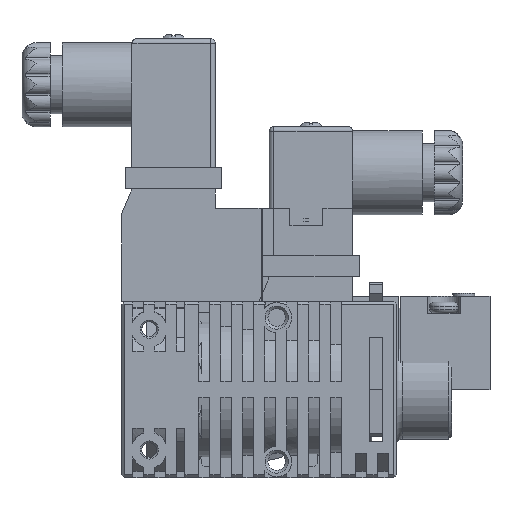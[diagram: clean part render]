
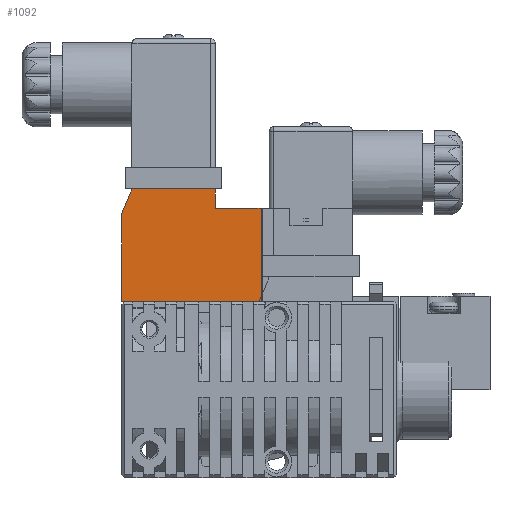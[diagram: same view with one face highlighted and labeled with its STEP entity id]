
A CAD part, front view. The second image highlights one B-rep face of the part: STEP entity #1092.
In plain terms, the highlighted planar face has unit normal (0, -1, 0).
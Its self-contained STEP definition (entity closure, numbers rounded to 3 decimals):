
#1092 = ADVANCED_FACE( '', ( #3025 ), #3026, .T. );
#3025 = FACE_OUTER_BOUND( '', #6035, .T. );
#3026 = PLANE( '', #6036 );
#6035 = EDGE_LOOP( '', ( #9441, #9442, #9443, #9444, #9445, #9446, #9447 ) );
#6036 = AXIS2_PLACEMENT_3D( '', #9448, #9449, #9450 );
#9441 = ORIENTED_EDGE( '', *, *, #17587, .F. );
#9442 = ORIENTED_EDGE( '', *, *, #17588, .T. );
#9443 = ORIENTED_EDGE( '', *, *, #17589, .T. );
#9444 = ORIENTED_EDGE( '', *, *, #17590, .T. );
#9445 = ORIENTED_EDGE( '', *, *, #17591, .T. );
#9446 = ORIENTED_EDGE( '', *, *, #17592, .T. );
#9447 = ORIENTED_EDGE( '', *, *, #17593, .T. );
#9448 = CARTESIAN_POINT( '', ( 0., -7.5, 0. ) );
#9449 = DIRECTION( '', ( 0., -1., 0. ) );
#9450 = DIRECTION( '', ( 0., 0., -1. ) );
#17587 = EDGE_CURVE( '', #21102, #21103, #21104, .T. );
#17588 = EDGE_CURVE( '', #21102, #21105, #21106, .T. );
#17589 = EDGE_CURVE( '', #21105, #21107, #21108, .T. );
#17590 = EDGE_CURVE( '', #21107, #21109, #21110, .T. );
#17591 = EDGE_CURVE( '', #21109, #21111, #21112, .T. );
#17592 = EDGE_CURVE( '', #21111, #21113, #21114, .T. );
#17593 = EDGE_CURVE( '', #21113, #21103, #21115, .T. );
#21102 = VERTEX_POINT( '', #26243 );
#21103 = VERTEX_POINT( '', #26244 );
#21104 = LINE( '', #26245, #26246 );
#21105 = VERTEX_POINT( '', #26247 );
#21106 = LINE( '', #26248, #26249 );
#21107 = VERTEX_POINT( '', #26250 );
#21108 = LINE( '', #26251, #26252 );
#21109 = VERTEX_POINT( '', #26253 );
#21110 = LINE( '', #26254, #26255 );
#21111 = VERTEX_POINT( '', #26256 );
#21112 = LINE( '', #26257, #26258 );
#21113 = VERTEX_POINT( '', #26259 );
#21114 = LINE( '', #26260, #26261 );
#21115 = LINE( '', #26262, #26263 );
#26243 = CARTESIAN_POINT( '', ( 25.35, -7.5, 17. ) );
#26244 = CARTESIAN_POINT( '', ( 25.35, -7.5, 0. ) );
#26245 = CARTESIAN_POINT( '', ( 25.35, -7.5, 17. ) );
#26246 = VECTOR( '', #33096, 1000. );
#26247 = CARTESIAN_POINT( '', ( 17., -7.5, 17. ) );
#26248 = CARTESIAN_POINT( '', ( 42., -7.5, 17. ) );
#26249 = VECTOR( '', #33097, 1000. );
#26250 = CARTESIAN_POINT( '', ( 17., -7.5, 20.5 ) );
#26251 = CARTESIAN_POINT( '', ( 17., -7.5, 17. ) );
#26252 = VECTOR( '', #33098, 1000. );
#26253 = CARTESIAN_POINT( '', ( 1.863, -7.5, 20.5 ) );
#26254 = CARTESIAN_POINT( '', ( 1.863, -7.5, 20.5 ) );
#26255 = VECTOR( '', #33099, 1000. );
#26256 = CARTESIAN_POINT( '', ( 0., -7.5, 16. ) );
#26257 = CARTESIAN_POINT( '', ( 0., -7.5, 16. ) );
#26258 = VECTOR( '', #33100, 1000. );
#26259 = CARTESIAN_POINT( '', ( 0., -7.5, 0. ) );
#26260 = CARTESIAN_POINT( '', ( 0., -7.5, 16. ) );
#26261 = VECTOR( '', #33101, 1000. );
#26262 = CARTESIAN_POINT( '', ( 0., -7.5, 0. ) );
#26263 = VECTOR( '', #33102, 1000. );
#33096 = DIRECTION( '', ( 0., 0., -1. ) );
#33097 = DIRECTION( '', ( -1., 0., 0. ) );
#33098 = DIRECTION( '', ( 0., 0., 1. ) );
#33099 = DIRECTION( '', ( -1., 0., 0. ) );
#33100 = DIRECTION( '', ( -0.382, 0., -0.924 ) );
#33101 = DIRECTION( '', ( 0., 0., -1. ) );
#33102 = DIRECTION( '', ( 1., 0., 0. ) );
